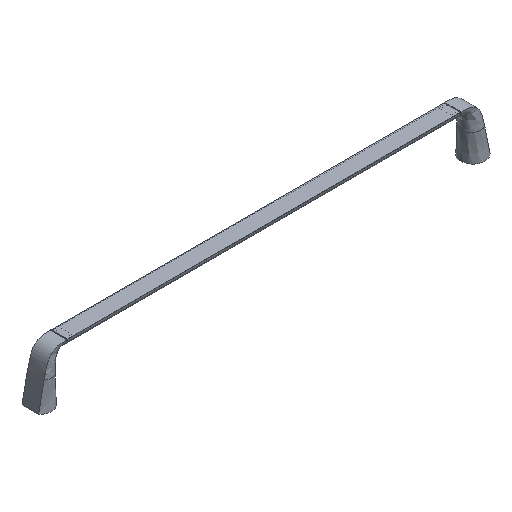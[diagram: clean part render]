
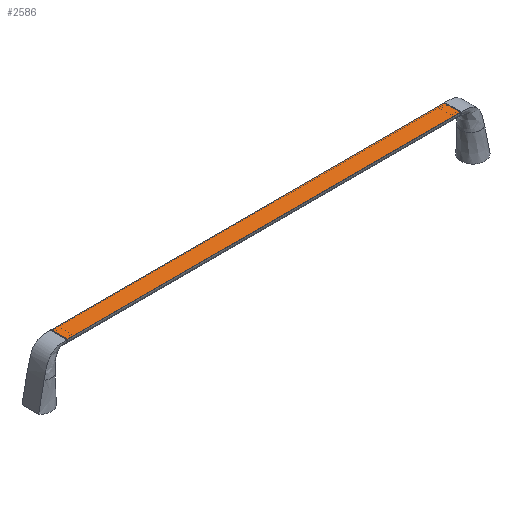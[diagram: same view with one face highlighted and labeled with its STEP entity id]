
A CAD part, isometric view. The second image highlights one B-rep face of the part: STEP entity #2586.
In plain terms, the highlighted planar face has unit normal (0, 0, 1).
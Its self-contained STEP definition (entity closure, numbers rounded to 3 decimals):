
#150=PLANE('',#2795);
#280=FACE_OUTER_BOUND('',#450,.T.);
#450=EDGE_LOOP('',(#2247,#2248,#2249,#2250));
#829=LINE('',#16006,#997);
#831=LINE('',#16022,#999);
#832=LINE('',#16024,#1000);
#833=LINE('',#16025,#1001);
#997=VECTOR('',#3251,23.);
#999=VECTOR('',#3267,545.);
#1000=VECTOR('',#3268,23.);
#1001=VECTOR('',#3269,545.);
#1231=VERTEX_POINT('',#16004);
#1232=VERTEX_POINT('',#16005);
#1239=VERTEX_POINT('',#16021);
#1240=VERTEX_POINT('',#16023);
#1576=EDGE_CURVE('',#1231,#1232,#829,.T.);
#1584=EDGE_CURVE('',#1232,#1239,#831,.T.);
#1585=EDGE_CURVE('',#1240,#1239,#832,.T.);
#1586=EDGE_CURVE('',#1231,#1240,#833,.T.);
#2247=ORIENTED_EDGE('',*,*,#1576,.T.);
#2248=ORIENTED_EDGE('',*,*,#1584,.T.);
#2249=ORIENTED_EDGE('',*,*,#1585,.F.);
#2250=ORIENTED_EDGE('',*,*,#1586,.F.);
#2586=ADVANCED_FACE('',(#280),#150,.T.);
#2795=AXIS2_PLACEMENT_3D('',#16020,#3265,#3266);
#3251=DIRECTION('',(0.,1.,0.));
#3265=DIRECTION('center_axis',(0.,0.,1.));
#3266=DIRECTION('ref_axis',(0.,1.,0.));
#3267=DIRECTION('',(-1.,0.,0.));
#3268=DIRECTION('',(0.,1.,0.));
#3269=DIRECTION('',(-1.,0.,0.));
#16004=CARTESIAN_POINT('',(572.918,-6.5,87.85));
#16005=CARTESIAN_POINT('',(572.918,16.5,87.85));
#16006=CARTESIAN_POINT('',(572.918,-6.5,87.85));
#16020=CARTESIAN_POINT('Origin',(572.918,-6.5,87.85));
#16021=CARTESIAN_POINT('',(27.918,16.5,87.85));
#16022=CARTESIAN_POINT('',(572.918,16.5,87.85));
#16023=CARTESIAN_POINT('',(27.918,-6.5,87.85));
#16024=CARTESIAN_POINT('',(27.918,-6.5,87.85));
#16025=CARTESIAN_POINT('',(572.918,-6.5,87.85));
